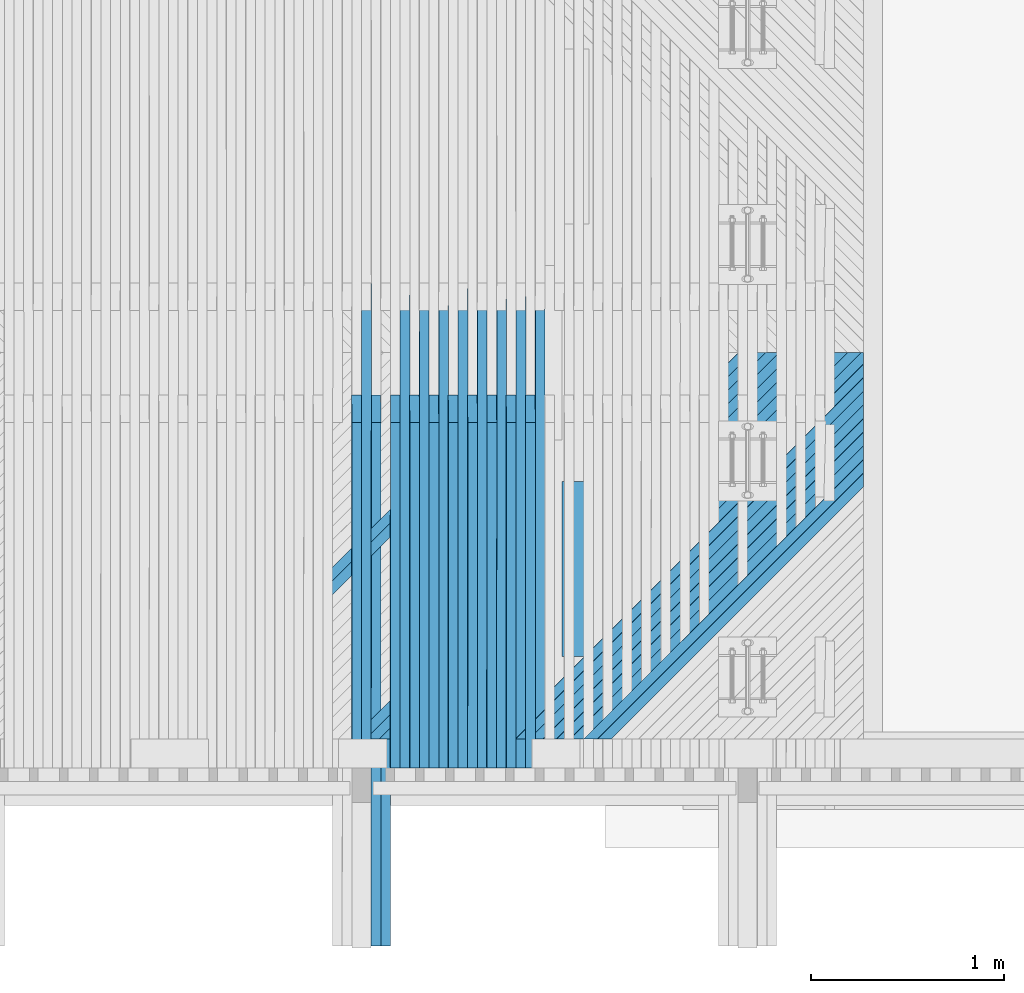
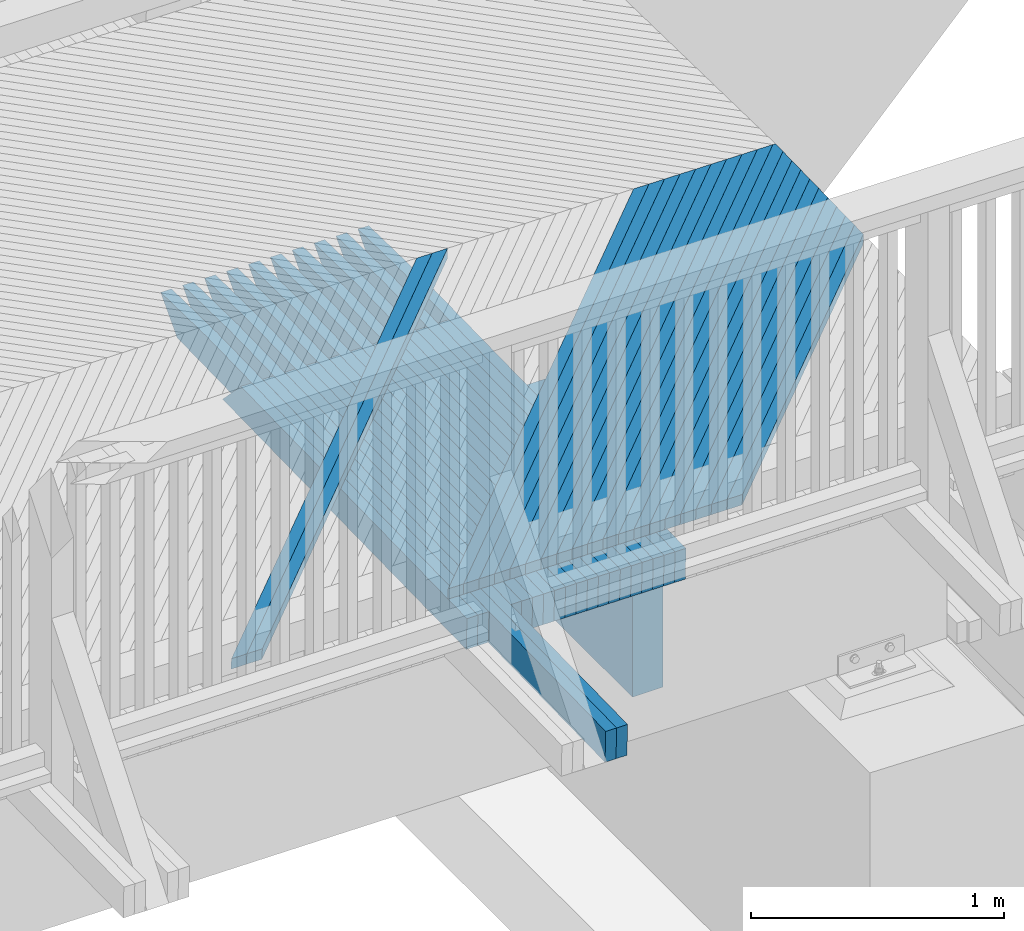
# One storey, part 41 of 53: 42 beams.
"""IFC2X3 building model written with IfcOpenShell, lengths in millimetres."""

import ifcopenshell
import ifcopenshell.guid

model = None  # the IFC model being written
_history = None  # IfcOwnerHistory: only IFC2X3 demands one
_inside = {}  # id of a spatial element -> (the spatial element, [elements in it])
_under = {}  # id of a project, library or spatial element -> (it, [spatial elements below it])
_declared = {}  # id of a project -> (the project, [libraries it declares])
_typed = {}  # id of a type object -> (the type object, [elements of that type])
_made_of = {}  # id of a material, layer set ... -> (it, [elements and type objects made of it])


def new_model(schema):
    """Start an empty IFC model of exactly this schema.

    Asked for "IFC4X3", IfcOpenShell would pick the latest addendum, in which some entities
    have other attributes; the version numbers below select the first issue.
    IFC2X3 requires an IfcOwnerHistory on every rooted entity: one is made here for all.
    """
    global model, _history
    if schema == "IFC4X3":
        model = ifcopenshell.file(schema_version=(4, 3, 0, 0))
    else:
        model = ifcopenshell.file(schema=schema)
    _inside.clear()
    _under.clear()
    _declared.clear()
    _typed.clear()
    _made_of.clear()
    _history = None
    if model.schema == "IFC2X3":
        org = make("IfcOrganization", Name="unknown")
        user = make(
            "IfcPersonAndOrganization",
            ThePerson=make("IfcPerson", FamilyName="unknown"),
            TheOrganization=org,
        )
        app = make(
            "IfcApplication",
            ApplicationDeveloper=org,
            Version="unknown",
            ApplicationFullName="unknown",
            ApplicationIdentifier="unknown",
        )
        _history = make(
            "IfcOwnerHistory",
            OwningUser=user,
            OwningApplication=app,
            ChangeAction="ADDED",
            CreationDate=0,
        )
    return model


def make(cls, **values):
    """One entity of the class cls with the attributes given. An attribute that is None is left unset."""
    return model.create_entity(
        cls, **{name: value for name, value in values.items() if value is not None}
    )


def rooted(cls, **values):
    """An entity with a GlobalId (a new one), such as an element, a storey or a relation."""
    return make(cls, GlobalId=ifcopenshell.guid.new(), OwnerHistory=_history, **values)


def si_unit(unit_type, name, prefix=None):
    """IfcSIUnit, for example si_unit("LENGTHUNIT", "METRE", prefix="MILLI")."""
    return make("IfcSIUnit", UnitType=unit_type, Prefix=prefix, Name=name)


def assignment(units):
    """IfcUnitAssignment: the units of a project."""
    return None if units is None else make("IfcUnitAssignment", Units=units)


def point(xyz):
    """IfcCartesianPoint."""
    return None if xyz is None else make("IfcCartesianPoint", Coordinates=xyz)


def direction(xyz):
    """IfcDirection."""
    return None if xyz is None else make("IfcDirection", DirectionRatios=xyz)


def frame(location, z_axis=None, x_axis=None):
    """IfcAxis2Placement3D, a coordinate frame: its origin and axes. An axis left out is left unset."""
    return make(
        "IfcAxis2Placement3D",
        Location=point(location),
        Axis=direction(z_axis),
        RefDirection=direction(x_axis),
    )


def origin_with_axes():
    """The frame at (0, 0, 0) with the z axis (0, 0, 1) and the x axis (1, 0, 0) written out."""
    return frame((0.0, 0.0, 0.0), z_axis=(0.0, 0.0, 1.0), x_axis=(1.0, 0.0, 0.0))


def place(relative_to, where):
    """IfcLocalPlacement: puts the frame where relative to a parent placement (None: the world)."""
    return make(
        "IfcLocalPlacement", PlacementRelTo=relative_to, RelativePlacement=where
    )


def context(
    kind, dimensions, precision=None, world=None, true_north=None, identifier=None
):
    """IfcGeometricRepresentationContext, for example the 3D "Model" context."""
    return make(
        "IfcGeometricRepresentationContext",
        ContextIdentifier=identifier,
        ContextType=kind,
        CoordinateSpaceDimension=dimensions,
        Precision=precision,
        WorldCoordinateSystem=world,
        TrueNorth=true_north,
    )


def subcontext(parent, identifier, kind, view, scale=None):
    """IfcGeometricRepresentationSubContext, for example "Body" below "Model"."""
    return make(
        "IfcGeometricRepresentationSubContext",
        ContextIdentifier=identifier,
        ContextType=kind,
        ParentContext=parent,
        TargetScale=scale,
        TargetView=view,
    )


def project(units=None, contexts=None):
    """IfcProject with its units and contexts."""
    return rooted(
        "IfcProject",
        Name="project",
        RepresentationContexts=contexts,
        UnitsInContext=assignment(units),
    )


def spatial(cls, under=None, at=None, **own):
    """A site, building, storey or space (cls), placed at a placement, below another one or the project."""
    s = rooted(cls, ObjectPlacement=at, **own)
    if under is not None:
        _under.setdefault(under.id(), (under, []))[1].append(s)
    return s


def faces_of(points, faces, orient=None, outer=None):
    """IfcFace entities. A face is a list of loops; a loop is a list of indices into points, from 0.

    orient and outer hold one flag for each loop. By default every Orientation is true, the
    first loop of a face is its IfcFaceOuterBound and the others are IfcFaceBound.
    """
    made = []
    for i, loops in enumerate(faces):
        bounds = []
        for j, loop in enumerate(loops):
            is_outer = j == 0 if outer is None else outer[i][j]
            bounds.append(
                make(
                    "IfcFaceOuterBound" if is_outer else "IfcFaceBound",
                    Bound=make("IfcPolyLoop", Polygon=[points[k] for k in loop]),
                    Orientation=True if orient is None else orient[i][j],
                )
            )
        made.append(make("IfcFace", Bounds=bounds))
    return made


def faceted_brep(points, faces, orient=None, outer=None, voids=None):
    """IfcFacetedBrep: a solid bounded by flat faces; with voids (closed shells), ...WithVoids."""
    shared = [point(p) for p in points]
    hull = make("IfcClosedShell", CfsFaces=faces_of(shared, faces, orient, outer))
    if voids is None:
        return make("IfcFacetedBrep", Outer=hull)
    return make(
        "IfcFacetedBrepWithVoids",
        Outer=hull,
        Voids=[
            make(cls, CfsFaces=faces_of(shared, fs, o, b)) for cls, fs, o, b in voids
        ],
    )


def shape(context_of_items, identifier, shape_type, items):
    """IfcShapeRepresentation: the items that make up one representation, for example the "Body"."""
    return make(
        "IfcShapeRepresentation",
        ContextOfItems=context_of_items,
        RepresentationIdentifier=identifier,
        RepresentationType=shape_type,
        Items=items,
    )


def material(Name=None, Category=None):
    """IfcMaterial."""
    return make("IfcMaterial", Name=Name, Category=Category)


def made_of(thing, what):
    """Note that an element or type object is made of a material, layer set ...; save() writes the relation."""
    if what is not None:
        _made_of.setdefault(what.id(), (what, []))[1].append(thing)
    return thing


def type_object(cls, material=None, **own):
    """A type object (cls), such as IfcWallType, which elements share."""
    return made_of(rooted(cls, **own), material)


def element(
    cls,
    number,
    at=None,
    inside=None,
    cuts=None,
    type_object=None,
    material=None,
    context=None,
    identifier="Body",
    shape_type=None,
    held_by="IfcProductDefinitionShape",
    body=None,
    shapes=None,
    **own,
):
    """One element of the class cls, such as IfcWall. Its Tag is "e" and its number.

    at: its placement. inside: the storey or other place that contains it. cuts: it is an
    opening in that element (IfcRelVoidsElement). A single representation is given by context,
    identifier, shape_type and body (its items); several are given by shapes. held_by: the class
    of the entity that holds the representations. save() writes the other relations.
    """
    e = rooted(cls, Tag="e%d" % number, ObjectPlacement=at, **own)
    if body is not None:
        shapes = [shape(context, identifier, shape_type, body)]
    if shapes is not None:
        e.Representation = make(held_by, Representations=shapes)
    if inside is not None:
        _inside.setdefault(inside.id(), (inside, []))[1].append(e)
    if cuts is not None:
        rooted(
            "IfcRelVoidsElement", RelatingBuildingElement=cuts, RelatedOpeningElement=e
        )
    if type_object is not None:
        _typed.setdefault(type_object.id(), (type_object, []))[1].append(e)
    return made_of(e, material)


def aggregate(whole, parts):
    """IfcRelAggregates: a whole, such as a stair, and the parts it consists of."""
    return rooted("IfcRelAggregates", RelatingObject=whole, RelatedObjects=parts)


def save(model, path):
    """Write the relations noted so far, then the file.

    IfcRelAggregates (storeys below a building ...), IfcRelContainedInSpatialStructure (elements
    in a storey), IfcRelDefinesByType, IfcRelAssociatesMaterial and IfcRelDeclares: one each for
    every whole, place, type object, material and project.
    """
    for whole, parts in _under.values():
        aggregate(whole, parts)
    for where, things in _inside.values():
        rooted(
            "IfcRelContainedInSpatialStructure",
            RelatedElements=things,
            RelatingStructure=where,
        )
    for kind, things in _typed.values():
        rooted("IfcRelDefinesByType", RelatedObjects=things, RelatingType=kind)
    for what, things in _made_of.values():
        rooted("IfcRelAssociatesMaterial", RelatedObjects=things, RelatingMaterial=what)
    for by, libraries in _declared.values():
        rooted("IfcRelDeclares", RelatingContext=by, RelatedDefinitions=libraries)
    model.write(path)


model = new_model("IFC2X3")

# Units and contexts
model_context = context("Model", 3, precision=1e-05, world=origin_with_axes())
body_context = subcontext(model_context, "Body", "Model", "MODEL_VIEW")
ifc_project = project(units=[si_unit("LENGTHUNIT", "METRE", prefix="MILLI"), si_unit("AREAUNIT", "SQUARE_METRE"), si_unit("VOLUMEUNIT", "CUBIC_METRE"), si_unit("MASSUNIT", "GRAM", prefix="KILO"), si_unit("TIMEUNIT", "SECOND"), si_unit("PLANEANGLEUNIT", "RADIAN"), si_unit("SOLIDANGLEUNIT", "STERADIAN"), si_unit("THERMODYNAMICTEMPERATUREUNIT", "DEGREE_CELSIUS"), si_unit("LUMINOUSINTENSITYUNIT", "LUMEN")], contexts=[model_context])

# Site, building, storey
site_placement = place(None, origin_with_axes())
site = spatial("IfcSite", under=ifc_project, at=site_placement, Name="Undefined", CompositionType="ELEMENT")
building_placement = place(site_placement, origin_with_axes())
building = spatial("IfcBuilding", under=site, at=building_placement, Name="Undefined", CompositionType="ELEMENT")
storey_placement = place(building_placement, origin_with_axes())
storey = spatial("IfcBuildingStorey", under=building, at=storey_placement, Name="Undefined", CompositionType="ELEMENT", Elevation=0.0)

# Beams
ifc_material = material(Name="TIMBER/Timber_Undefined")
beam_type_1 = type_object("IfcBeamType", Name="945*140", PredefinedType="NOTDEFINED")
beam_1_placement = place(storey_placement, frame((15109.0, 41697.5, 2500.4679002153), z_axis=(0.0, 0.0, 1.0), x_axis=(0.0, -1.0, 0.0)))
element("IfcBeam", 1, at=beam_1_placement, inside=storey, type_object=beam_type_1, material=ifc_material, Name="PALKKI", ObjectType="945*140", context=body_context, shape_type="Brep", body=[
    faceted_brep([(0.0, 70.0, -472.5), (0.0, 70.0, 472.5), (905.0, 70.0, 472.5), (905.0, 70.0, -472.5), (0.0, -70.0, 472.5), (905.0, -70.0, 472.5), (0.0, -70.0, -472.5), (905.0, -70.0, -472.5)], [[[0, 1, 2, 3]], [[1, 4, 5, 2]], [[4, 6, 7, 5]], [[6, 0, 3, 7]], [[5, 7, 3, 2]], [[6, 4, 1, 0]]]),
])
beam_type_2 = type_object("IfcBeamType", Name="50*50", PredefinedType="NOTDEFINED")
beam_2_placement = place(storey_placement, frame((17258.8677408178, 42364.5001003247, 3164.92933385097), z_axis=(0.706832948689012, -0.706981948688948, -0.0237425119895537), x_axis=(-0.707250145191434, -0.706948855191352, -0.00453302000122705)))
element("IfcBeam", 2, at=beam_2_placement, inside=storey, type_object=beam_type_2, material=ifc_material, Name="BEAM", ObjectType="50*50", context=body_context, shape_type="Brep", body=[
    faceted_brep([(2802.92643296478, -25.0, 25.0), (2852.92877373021, -25.0000000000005, -25.0000000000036), (2854.34301907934, 24.9999999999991, -25.0000000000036), (2804.34067830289, 25.0, 25.0000000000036), (906.12553705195, 24.9999999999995, -25.0), (956.096042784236, 24.9999999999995, 25.0000000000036), (957.056097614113, -24.9999999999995, 24.9999999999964), (907.085591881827, -24.9999999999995, -25.0000000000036)], [[[0, 1, 2, 3]], [[3, 2, 4, 5]], [[0, 3, 5, 6]], [[1, 0, 6, 7]], [[2, 1, 7, 4]], [[6, 5, 4, 7]]]),
])
beam_3_placement = place(storey_placement, frame((17188.1518059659, 42364.5001003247, 3166.01273338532), z_axis=(0.706835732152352, -0.706981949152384, -0.0236594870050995), x_axis=(-0.707249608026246, -0.706948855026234, -0.00461609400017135)))
element("IfcBeam", 3, at=beam_3_placement, inside=storey, type_object=beam_type_2, material=ifc_material, Name="BEAM", ObjectType="50*50", context=body_context, shape_type="Brep", body=[
    faceted_brep([(2802.92643296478, -25.0, 25.0), (2852.92877373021, -25.0000000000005, -25.0000000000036), (2854.34301907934, 24.9999999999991, -25.0000000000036), (2804.34067830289, 25.0, 25.0000000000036), (806.143039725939, 24.9999999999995, -24.9999999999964), (856.113780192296, 25.0, 24.9999999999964), (857.065534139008, -24.9999999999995, 24.9999999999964), (807.094793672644, -24.9999999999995, -25.0000000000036)], [[[0, 1, 2, 3]], [[3, 2, 4, 5]], [[0, 3, 5, 6]], [[1, 0, 6, 7]], [[2, 1, 7, 4]], [[6, 5, 4, 7]]]),
])
beam_4_placement = place(storey_placement, frame((17117.4357443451, 42364.5001003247, 3167.08782657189), z_axis=(0.706838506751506, -0.706981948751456, -0.0235764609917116), x_axis=(-0.707249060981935, -0.706948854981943, -0.00469916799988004)))
element("IfcBeam", 4, at=beam_4_placement, inside=storey, type_object=beam_type_2, material=ifc_material, Name="BEAM", ObjectType="50*50", context=body_context, shape_type="Brep", body=[
    faceted_brep([(2802.92643296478, -25.0, 25.0), (2852.92877373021, -25.0000000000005, -25.0000000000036), (2854.34301907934, 24.9999999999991, -25.0000000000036), (2804.34067830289, 25.0, 25.0000000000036), (706.160221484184, 25.0, -25.0000000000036), (756.131196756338, 25.0, 25.0000000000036), (757.074649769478, -25.0, 25.0000000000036), (707.103674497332, -24.9999999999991, -25.0000000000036)], [[[0, 1, 2, 3]], [[3, 2, 4, 5]], [[0, 3, 5, 6]], [[1, 0, 6, 7]], [[2, 1, 7, 4]], [[6, 5, 4, 7]]]),
])
beam_5_placement = place(storey_placement, frame((17046.7195569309, 42364.5001003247, 3168.15461339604), z_axis=(0.706841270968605, -0.706981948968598, -0.0234934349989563), x_axis=(-0.707248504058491, -0.706948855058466, -0.00478224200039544)))
element("IfcBeam", 5, at=beam_5_placement, inside=storey, type_object=beam_type_2, material=ifc_material, Name="BEAM", ObjectType="50*50", context=body_context, shape_type="Brep", body=[
    faceted_brep([(2802.92643296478, -25.0, 25.0), (2852.92877373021, -25.0000000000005, -25.0000000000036), (2854.34301907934, 24.9999999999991, -25.0000000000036), (2804.34067830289, 25.0, 25.0000000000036), (606.177079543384, 24.9999999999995, -25.0), (656.148289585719, 24.9999999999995, 24.9999999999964), (657.083441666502, -25.0000000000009, 24.9999999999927), (607.112231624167, -25.0000000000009, -25.0000000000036)], [[[0, 1, 2, 3]], [[3, 2, 4, 5]], [[0, 3, 5, 6]], [[1, 0, 6, 7]], [[2, 1, 7, 4]], [[6, 5, 4, 7]]]),
])
beam_6_placement = place(storey_placement, frame((16976.0032446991, 42364.5001003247, 3169.21309384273), z_axis=(0.70684402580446, -0.706981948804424, -0.0234104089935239), x_axis=(-0.707247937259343, -0.706948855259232, -0.00486531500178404)))
element("IfcBeam", 6, at=beam_6_placement, inside=storey, type_object=beam_type_2, material=ifc_material, Name="BEAM", ObjectType="50*50", context=body_context, shape_type="Brep", body=[
    faceted_brep([(2802.92643296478, -25.0, 25.0), (2852.92877373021, -25.0000000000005, -25.0000000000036), (2854.34301907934, 24.9999999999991, -25.0000000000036), (2804.34067830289, 25.0, 25.0000000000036), (506.193611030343, 24.9999999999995, -24.9999999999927), (556.165055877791, 24.9999999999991, 25.0000000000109), (557.091907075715, -25.0, 25.0000000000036), (507.120462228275, -25.0000000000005, -24.9999999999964)], [[[0, 1, 2, 3]], [[3, 2, 4, 5]], [[0, 3, 5, 6]], [[1, 0, 6, 7]], [[2, 1, 7, 4]], [[6, 5, 4, 7]]]),
])
beam_7_placement = place(storey_placement, frame((16905.2868086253, 42364.5001003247, 3170.26326789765), z_axis=(0.706846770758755, -0.70698194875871, -0.0233273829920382), x_axis=(-0.707247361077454, -0.706948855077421, -0.00494838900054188)))
element("IfcBeam", 7, at=beam_7_placement, inside=storey, type_object=beam_type_2, material=ifc_material, Name="BEAM", ObjectType="50*50", context=body_context, shape_type="Brep", body=[
    faceted_brep([(2802.92643296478, -25.0, 25.0), (2852.92877373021, -25.0000000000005, -25.0000000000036), (2854.34301907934, 24.9999999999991, -25.0000000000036), (2804.34067830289, 25.0, 25.0000000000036), (406.209812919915, 25.0000000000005, -25.0000000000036), (456.181492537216, 25.0, 25.0000000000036), (457.100042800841, -25.0000000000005, 25.0000000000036), (407.128363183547, -25.0000000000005, -25.0000000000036)], [[[0, 1, 2, 3]], [[3, 2, 4, 5]], [[0, 3, 5, 6]], [[1, 0, 6, 7]], [[2, 1, 7, 4]], [[6, 5, 4, 7]]]),
])
beam_8_placement = place(storey_placement, frame((16834.5702496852, 42364.5001003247, 3171.30513554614), z_axis=(0.706849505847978, -0.706981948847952, -0.023244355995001), x_axis=(-0.707246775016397, -0.70694885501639, -0.0050314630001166)))
element("IfcBeam", 8, at=beam_8_placement, inside=storey, type_object=beam_type_2, material=ifc_material, Name="BEAM", ObjectType="50*50", context=body_context, shape_type="Brep", body=[
    faceted_brep([(2802.92643296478, -25.0, 25.0), (2852.92877373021, -25.0000000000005, -25.0000000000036), (2854.34301907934, 24.9999999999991, -25.0000000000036), (2804.34067830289, 25.0, 25.0000000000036), (306.22568282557, 25.0, -25.0), (356.197597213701, 25.0, 25.0000000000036), (357.107846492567, -25.0, 25.0000000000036), (307.135932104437, -24.9999999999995, -25.0)], [[[0, 1, 2, 3]], [[3, 2, 4, 5]], [[0, 3, 5, 6]], [[1, 0, 6, 7]], [[2, 1, 7, 4]], [[6, 5, 4, 7]]]),
])
beam_9_placement = place(storey_placement, frame((16763.8535688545, 42364.5001003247, 3172.33869677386), z_axis=(0.706852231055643, -0.706981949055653, -0.0231613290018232), x_axis=(-0.707246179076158, -0.706948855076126, -0.0051145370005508)))
element("IfcBeam", 9, at=beam_9_placement, inside=storey, type_object=beam_type_2, material=ifc_material, Name="BEAM", ObjectType="50*50", context=body_context, shape_type="Brep", body=[
    faceted_brep([(2802.92643296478, -25.0, 25.0), (2852.92877373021, -25.0000000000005, -25.0000000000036), (2854.34301907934, 24.9999999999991, -25.0000000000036), (2804.34067830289, 25.0, 25.0000000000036), (206.241217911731, 25.0000000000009, -25.0000000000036), (256.21336707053, 25.0000000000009, 24.9999999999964), (257.115315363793, -25.0, 24.9999999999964), (207.143166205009, -25.0, -24.9999999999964)], [[[0, 1, 2, 3]], [[3, 2, 4, 5]], [[0, 3, 5, 6]], [[1, 0, 6, 7]], [[2, 1, 7, 4]], [[6, 5, 4, 7]]]),
])
beam_10_placement = place(storey_placement, frame((16693.1367671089, 42364.5001003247, 3173.36395156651), z_axis=(0.706854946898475, -0.706981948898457, -0.0230783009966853), x_axis=(-0.707245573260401, -0.70694885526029, -0.00519761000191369)))
element("IfcBeam", 10, at=beam_10_placement, inside=storey, type_object=beam_type_2, material=ifc_material, Name="BEAM", ObjectType="50*50", context=body_context, shape_type="Brep", body=[
    faceted_brep([(2802.92643296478, -25.0, 25.0), (2852.92877373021, -25.0000000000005, -25.0000000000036), (2854.34301907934, 24.9999999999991, -25.0000000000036), (2804.34067830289, 25.0, 25.0000000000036), (106.256415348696, 25.0000000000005, -25.0), (156.228799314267, 25.0, 24.9999999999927), (157.122446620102, -25.0, 24.9999999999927), (107.150062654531, -25.0000000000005, -25.0)], [[[0, 1, 2, 3]], [[3, 2, 4, 5]], [[0, 3, 5, 6]], [[1, 0, 6, 7]], [[2, 1, 7, 4]], [[6, 5, 4, 7]]]),
])
beam_11_placement = place(storey_placement, frame((16622.419845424, 42364.5001003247, 3174.38089991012), z_axis=(0.70685765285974, -0.706981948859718, -0.0229952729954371), x_axis=(-0.707244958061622, -0.706948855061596, -0.00528068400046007)))
element("IfcBeam", 11, at=beam_11_placement, inside=storey, type_object=beam_type_2, material=ifc_material, Name="BEAM", ObjectType="50*50", context=body_context, shape_type="Brep", body=[
    faceted_brep([(2802.92643296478, -25.0, 25.0), (2852.92877373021, -25.0000000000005, -25.0000000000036), (2854.34301907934, 24.9999999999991, -25.0000000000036), (2804.34067830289, 25.0, 25.0000000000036), (23.4806436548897, -25.0, -25.0), (24.8942457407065, 25.0, -25.0), (15.3243279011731, -25.0000000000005, -16.8278154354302), (15.5892580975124, 25.0, -15.6769087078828), (56.2438911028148, 24.9999999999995, 25.0000000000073), (57.1292373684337, -25.0000000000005, 25.0000000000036)], [[[0, 1, 2, 3]], [[4, 5, 2, 1]], [[5, 4, 6, 7]], [[3, 2, 5, 7, 8]], [[0, 3, 8, 9]], [[4, 1, 0, 9, 6]], [[8, 7, 6, 9]]]),
])
for number, where, z_axis, x_axis, name in (
    (12, (16551.7028047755, 42364.5001003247, 3175.38954179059), (0.706860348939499, -0.70698194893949, -0.0229122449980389), (-0.707244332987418, -0.706948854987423, -0.00536375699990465), "BEAM"),
    (13, (16480.9856461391, 42364.5001003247, 3176.38987719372), (0.706863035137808, -0.706981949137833, -0.0228292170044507), (-0.707243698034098, -0.706948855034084, -0.00544683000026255), "BEAM"),
    (14, (16410.2683704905, 42364.5001003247, 3177.38190610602), (0.706865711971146, -0.706981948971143, -0.0227461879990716), (-0.707243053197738, -0.706948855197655, -0.00552990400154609), "BEAM"),
    (15, (16339.5509788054, 42364.5001003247, 3178.36562851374), (0.706868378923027, -0.706981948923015, -0.0226631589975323), (-0.707242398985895, -0.7069488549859, -0.00561297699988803), "BEAM"),
    (16, (16268.8334720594, 42364.5001003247, 3179.34104440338), (0.706871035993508, -0.706981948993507, -0.0225801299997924), (-0.707241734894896, -0.706948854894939, -0.00569604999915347), "BEAM"),
    (17, (16198.1158512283, 42364.5001003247, 3180.30815376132), (0.706873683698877, -0.706981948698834, -0.0224970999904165), (-0.707241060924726, -0.706948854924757, -0.00577912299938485), "BEAM"),
    (18, (16127.3981172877, 42364.5001003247, 3181.26695657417), (0.706876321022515, -0.706981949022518, -0.0224140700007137), (-0.707240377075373, -0.706948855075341, -0.00586219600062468), "BEAM"),
    (19, (16056.6802712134, 42364.5001003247, 3182.21745282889), (0.706878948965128, -0.706981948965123, -0.0223310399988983), (-0.707239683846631, -0.706948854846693, -0.00594526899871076), "BEAM"),
    (20, (15985.962313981, 42364.5001003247, 3183.15964251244), (0.706881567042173, -0.706981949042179, -0.0222480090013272), (-0.707238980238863, -0.706948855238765, -0.00602834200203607), "BEAM"),
    (21, (15066.6191985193, 42364.5001003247, 3194.65220464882), (0.706914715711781, -0.706981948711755, -0.0211685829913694), (-0.707228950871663, -0.706948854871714, -0.00710827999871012), "BEAM"),
    (22, (14995.8997875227, 42364.5001003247, 3195.47810102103), (0.706917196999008, -0.706981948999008, -0.0210855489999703), (-0.707228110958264, -0.70694885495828, -0.00719135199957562), "BEAM"),
):
    element("IfcBeam", number, at=place(storey_placement, frame(where, z_axis=z_axis, x_axis=x_axis)), inside=storey, type_object=beam_type_2, material=ifc_material, Name=name, ObjectType="50*50", context=body_context, shape_type="Brep", body=[
        faceted_brep([(24.8942457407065, 25.0, -25.0), (-25.0086637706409, 24.9999999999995, 24.9999999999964), (2804.34067830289, 25.0, 25.0000000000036), (2854.34301907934, 24.9999999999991, -25.0000000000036), (-26.4222658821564, -25.0000000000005, 25.0000000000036), (2802.92643296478, -25.0, 25.0), (23.4806436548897, -25.0, -25.0), (2852.92877373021, -25.0000000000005, -25.0000000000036)], [[[0, 1, 2, 3]], [[1, 4, 5, 2]], [[4, 6, 7, 5]], [[6, 0, 3, 7]], [[5, 7, 3, 2]], [[6, 4, 1, 0]]]),
    ])
beam_type_3 = type_object("IfcBeamType", Name="150*50", PredefinedType="NOTDEFINED")
beam_12_placement = place(storey_placement, frame((14124.5888639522, 39292.7893475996, 3043.50597132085), z_axis=(0.0101765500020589, -0.0199960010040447, 0.99974826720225), x_axis=(0.000202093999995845, 0.99980005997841, 0.0199949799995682)))
element("IfcBeam", 23, at=beam_12_placement, inside=storey, type_object=beam_type_3, material=ifc_material, Name="BEAM", ObjectType="150*50", context=body_context, shape_type="Brep", body=[
    faceted_brep([(1.28420651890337e-08, -24.9999999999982, -74.9999999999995), (-1.28347892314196e-08, -24.9999999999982, 75.0), (-1.28347892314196e-08, 25.0, 75.0), (1.28420651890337e-08, 25.0000000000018, -75.0), (3298.90497884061, 24.9999999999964, -74.9999999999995), (3298.90492234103, -25.0, -74.9999999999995), (3434.49245887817, -25.0, 60.5875365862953), (3074.32503029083, -25.0, 75.0000000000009), (3074.32503673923, 25.0000000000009, 75.0), (3434.49251531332, 24.9999999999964, 60.5875365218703)], [[[0, 1, 2, 3]], [[0, 3, 4, 5]], [[1, 0, 5, 6, 7]], [[2, 1, 7, 8]], [[4, 3, 2, 8, 9]], [[5, 4, 9, 6]], [[8, 7, 6, 9]]]),
])
beam_13_placement = place(storey_placement, frame((14074.5736691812, 39292.7893321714, 3044.01508028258), z_axis=(0.0100104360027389, -0.0199960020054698, 0.999749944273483), x_axis=(0.000199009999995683, 0.999800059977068, 0.0199950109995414)))
element("IfcBeam", 24, at=beam_13_placement, inside=storey, type_object=beam_type_3, material=ifc_material, Name="BEAM", ObjectType="150*50", context=body_context, shape_type="Brep", body=[
    faceted_brep([(1.28420651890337e-08, -24.9999999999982, -74.9999999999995), (-1.28347892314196e-08, -24.9999999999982, 75.0), (-1.28347892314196e-08, 25.0, 75.0), (1.28420651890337e-08, 25.0000000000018, -75.0), (2713.86938248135, -25.0000000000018, 74.9999999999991), (2713.86933800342, 25.0000000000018, 75.0), (2852.32643692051, 24.9999999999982, -75.0000000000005), (2852.32648139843, -25.0000000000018, -75.0000000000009)], [[[0, 1, 2, 3]], [[2, 1, 4, 5]], [[3, 2, 5, 6]], [[0, 3, 6, 7]], [[1, 0, 7, 4]], [[7, 6, 5, 4]]]),
])
beam_14_placement = place(storey_placement, frame((14874.6038632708, 40216.5046076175, 3053.88204159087), z_axis=(0.0113405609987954, -0.0199960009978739, 0.999735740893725), x_axis=(0.000226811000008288, 0.999800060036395, 0.0199947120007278)))
element("IfcBeam", 25, at=beam_14_placement, inside=storey, type_object=beam_type_3, material=ifc_material, Name="BEAM", ObjectType="150*50", context=body_context, shape_type="Brep", body=[
    faceted_brep([(1.28420651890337e-08, -24.9999999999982, -74.9999999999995), (-1.28347892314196e-08, -24.9999999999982, 75.0), (-1.28347892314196e-08, 25.0, 75.0), (1.28420651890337e-08, 25.0000000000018, -75.0), (1789.96936433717, -25.0000000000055, 74.9999999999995), (1789.96936408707, 24.9999999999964, 75.0000000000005), (1928.42646328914, 24.9999999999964, -74.9999999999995), (1928.42646353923, -25.0000000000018, -75.0)], [[[0, 1, 2, 3]], [[2, 1, 4, 5]], [[3, 2, 5, 6]], [[0, 3, 6, 7]], [[1, 0, 7, 4]], [[6, 5, 4, 7]]]),
])
beam_15_placement = place(storey_placement, frame((14924.6205833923, 40216.5046076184, 3053.30636416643), z_axis=(0.0115066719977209, -0.0199960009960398, 0.999733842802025), x_axis=(0.00023013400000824, 0.999800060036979, 0.0199946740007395)))
element("IfcBeam", 26, at=beam_15_placement, inside=storey, type_object=beam_type_3, material=ifc_material, Name="BEAM", ObjectType="150*50", context=body_context, shape_type="Brep", body=[
    faceted_brep([(1.28420651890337e-08, -24.9999999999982, -74.9999999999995), (-1.28347892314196e-08, -24.9999999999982, 75.0), (-1.28347892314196e-08, 25.0, 75.0), (1.28420651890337e-08, 25.0000000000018, -75.0), (2375.00494422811, 25.0000000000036, -75.0), (2375.0049444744, -24.9999999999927, -74.9999999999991), (2510.5924871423, -24.9999999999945, 60.5875430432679), (2150.42514405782, -24.9999999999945, 75.0), (2150.42515052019, 25.0000000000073, 75.0), (2510.59248715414, 25.0000000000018, 60.5875433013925)], [[[0, 1, 2, 3]], [[0, 3, 4, 5]], [[1, 0, 5, 6, 7]], [[2, 1, 7, 8]], [[4, 3, 2, 8, 9]], [[5, 4, 9, 6]], [[6, 9, 8, 7]]]),
])
beam_16_placement = place(storey_placement, frame((14774.590259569, 40216.5046076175, 3055.01598487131), z_axis=(0.0111744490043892, -0.0199960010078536, 0.99973761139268), x_axis=(0.000223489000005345, 0.999800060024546, 0.0199947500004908)))
element("IfcBeam", 27, at=beam_16_placement, inside=storey, type_object=beam_type_3, material=ifc_material, Name="BEAM", ObjectType="150*50", context=body_context, shape_type="Brep", body=[
    faceted_brep([(1.28420651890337e-08, -24.9999999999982, -74.9999999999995), (-1.28347892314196e-08, -24.9999999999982, 75.0), (-1.28347892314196e-08, 25.0, 75.0), (1.28420651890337e-08, 25.0000000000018, -75.0), (1789.96936433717, -25.0000000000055, 74.9999999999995), (1789.96936408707, 24.9999999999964, 75.0000000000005), (1928.42646328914, 24.9999999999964, -74.9999999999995), (1928.42646353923, -25.0000000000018, -75.0)], [[[0, 1, 2, 3]], [[2, 1, 4, 5]], [[3, 2, 5, 6]], [[0, 3, 6, 7]], [[1, 0, 7, 4]], [[6, 5, 4, 7]]]),
])
beam_17_placement = place(storey_placement, frame((14824.6070746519, 40216.5046076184, 3054.44861800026), z_axis=(0.0113405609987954, -0.0199960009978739, 0.999735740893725), x_axis=(0.000226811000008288, 0.999800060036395, 0.0199947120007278)))
element("IfcBeam", 28, at=beam_17_placement, inside=storey, type_object=beam_type_3, material=ifc_material, Name="BEAM", ObjectType="150*50", context=body_context, shape_type="Brep", body=[
    faceted_brep([(1.28420651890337e-08, -24.9999999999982, -74.9999999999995), (-1.28347892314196e-08, -24.9999999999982, 75.0), (-1.28347892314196e-08, 25.0, 75.0), (1.28420651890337e-08, 25.0000000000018, -75.0), (2375.00494422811, 25.0000000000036, -75.0), (2375.0049444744, -24.9999999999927, -74.9999999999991), (2510.5924871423, -24.9999999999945, 60.5875430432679), (2150.42514405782, -24.9999999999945, 75.0), (2150.42515052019, 25.0000000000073, 75.0), (2510.59248715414, 25.0000000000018, 60.5875433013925)], [[[0, 1, 2, 3]], [[0, 3, 4, 5]], [[1, 0, 5, 6, 7]], [[2, 1, 7, 8]], [[4, 3, 2, 8, 9]], [[5, 4, 9, 6]], [[6, 9, 8, 7]]]),
])
beam_18_placement = place(storey_placement, frame((14674.576468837, 40216.5046076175, 3056.13331034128), z_axis=(0.0110083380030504, -0.0199960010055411, 0.999739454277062), x_axis=(0.000220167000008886, 0.999800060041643, 0.0199947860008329)))
element("IfcBeam", 29, at=beam_18_placement, inside=storey, type_object=beam_type_3, material=ifc_material, Name="BEAM", ObjectType="150*50", context=body_context, shape_type="Brep", body=[
    faceted_brep([(1.28420651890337e-08, -24.9999999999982, -74.9999999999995), (-1.28347892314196e-08, -24.9999999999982, 75.0), (-1.28347892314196e-08, 25.0, 75.0), (1.28420651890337e-08, 25.0000000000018, -75.0), (1789.96936433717, -25.0000000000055, 74.9999999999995), (1789.96936408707, 24.9999999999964, 75.0000000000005), (1928.42646328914, 24.9999999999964, -74.9999999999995), (1928.42646353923, -25.0000000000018, -75.0)], [[[0, 1, 2, 3]], [[2, 1, 4, 5]], [[3, 2, 5, 6]], [[0, 3, 6, 7]], [[1, 0, 7, 4]], [[6, 5, 4, 7]]]),
])
beam_19_placement = place(storey_placement, frame((14724.5933775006, 40216.5046076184, 3055.57425403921), z_axis=(0.0111744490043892, -0.0199960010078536, 0.99973761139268), x_axis=(0.000223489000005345, 0.999800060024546, 0.0199947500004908)))
element("IfcBeam", 30, at=beam_19_placement, inside=storey, type_object=beam_type_3, material=ifc_material, Name="BEAM", ObjectType="150*50", context=body_context, shape_type="Brep", body=[
    faceted_brep([(1.28420651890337e-08, -24.9999999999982, -74.9999999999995), (-1.28347892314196e-08, -24.9999999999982, 75.0), (-1.28347892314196e-08, 25.0, 75.0), (1.28420651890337e-08, 25.0000000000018, -75.0), (2375.00494422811, 25.0000000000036, -75.0), (2375.0049444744, -24.9999999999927, -74.9999999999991), (2510.5924871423, -24.9999999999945, 60.5875430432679), (2150.42514405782, -24.9999999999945, 75.0), (2150.42515052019, 25.0000000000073, 75.0), (2510.59248715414, 25.0000000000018, 60.5875433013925)], [[[0, 1, 2, 3]], [[0, 3, 4, 5]], [[1, 0, 5, 6, 7]], [[2, 1, 7, 8]], [[4, 3, 2, 8, 9]], [[5, 4, 9, 6]], [[6, 9, 8, 7]]]),
])
beam_20_placement = place(storey_placement, frame((14574.562493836, 40216.5046076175, 3057.23401797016), z_axis=(0.0108422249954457, -0.0199960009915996, 0.999741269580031), x_axis=(0.000216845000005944, 0.999800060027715, 0.0199948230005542)))
element("IfcBeam", 31, at=beam_20_placement, inside=storey, type_object=beam_type_3, material=ifc_material, Name="BEAM", ObjectType="150*50", context=body_context, shape_type="Brep", body=[
    faceted_brep([(1.28420651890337e-08, -24.9999999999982, -74.9999999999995), (-1.28347892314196e-08, -24.9999999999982, 75.0), (-1.28347892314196e-08, 25.0, 75.0), (1.28420651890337e-08, 25.0000000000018, -75.0), (1789.96936433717, -25.0000000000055, 74.9999999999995), (1789.96936408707, 24.9999999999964, 75.0000000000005), (1928.42646328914, 24.9999999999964, -74.9999999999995), (1928.42646353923, -25.0000000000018, -75.0)], [[[0, 1, 2, 3]], [[2, 1, 4, 5]], [[3, 2, 5, 6]], [[0, 3, 6, 7]], [[1, 0, 7, 4]], [[6, 5, 4, 7]]]),
])
beam_21_placement = place(storey_placement, frame((14624.5794946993, 40216.5046076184, 3056.68327225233), z_axis=(0.0110083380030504, -0.0199960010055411, 0.999739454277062), x_axis=(0.000220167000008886, 0.999800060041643, 0.0199947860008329)))
element("IfcBeam", 32, at=beam_21_placement, inside=storey, type_object=beam_type_3, material=ifc_material, Name="BEAM", ObjectType="150*50", context=body_context, shape_type="Brep", body=[
    faceted_brep([(1.28420651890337e-08, -24.9999999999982, -74.9999999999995), (-1.28347892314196e-08, -24.9999999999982, 75.0), (-1.28347892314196e-08, 25.0, 75.0), (1.28420651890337e-08, 25.0000000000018, -75.0), (2375.00494422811, 25.0000000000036, -75.0), (2375.0049444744, -24.9999999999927, -74.9999999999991), (2510.5924871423, -24.9999999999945, 60.5875430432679), (2150.42514405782, -24.9999999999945, 75.0), (2150.42515052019, 25.0000000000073, 75.0), (2510.59248715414, 25.0000000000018, 60.5875433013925)], [[[0, 1, 2, 3]], [[0, 3, 4, 5]], [[1, 0, 5, 6, 7]], [[2, 1, 7, 8]], [[4, 3, 2, 8, 9]], [[5, 4, 9, 6]], [[6, 9, 8, 7]]]),
])
beam_22_placement = place(storey_placement, frame((14474.5483373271, 40216.5046076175, 3058.31810772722), z_axis=(0.0106761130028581, -0.0199960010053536, 0.999743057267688), x_axis=(0.000213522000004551, 0.999800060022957, 0.0199948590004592)))
element("IfcBeam", 33, at=beam_22_placement, inside=storey, type_object=beam_type_3, material=ifc_material, Name="BEAM", ObjectType="150*50", context=body_context, shape_type="Brep", body=[
    faceted_brep([(1.28420651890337e-08, -24.9999999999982, -74.9999999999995), (-1.28347892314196e-08, -24.9999999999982, 75.0), (-1.28347892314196e-08, 25.0, 75.0), (1.28420651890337e-08, 25.0000000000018, -75.0), (1789.96936433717, -25.0000000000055, 74.9999999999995), (1789.96936408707, 24.9999999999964, 75.0000000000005), (1928.42646328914, 24.9999999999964, -74.9999999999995), (1928.42646353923, -25.0000000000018, -75.0)], [[[0, 1, 2, 3]], [[2, 1, 4, 5]], [[3, 2, 5, 6]], [[0, 3, 6, 7]], [[1, 0, 7, 4]], [[6, 5, 4, 7]]]),
])
beam_23_placement = place(storey_placement, frame((14524.5654290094, 40216.5046076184, 3057.77567260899), z_axis=(0.0108422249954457, -0.0199960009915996, 0.999741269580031), x_axis=(0.000216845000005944, 0.999800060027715, 0.0199948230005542)))
element("IfcBeam", 34, at=beam_23_placement, inside=storey, type_object=beam_type_3, material=ifc_material, Name="BEAM", ObjectType="150*50", context=body_context, shape_type="Brep", body=[
    faceted_brep([(1.28420651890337e-08, -24.9999999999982, -74.9999999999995), (-1.28347892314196e-08, -24.9999999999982, 75.0), (-1.28347892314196e-08, 25.0, 75.0), (1.28420651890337e-08, 25.0000000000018, -75.0), (2375.00494422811, 25.0000000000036, -75.0), (2375.0049444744, -24.9999999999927, -74.9999999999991), (2510.5924871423, -24.9999999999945, 60.5875430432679), (2150.42514405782, -24.9999999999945, 75.0), (2150.42515052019, 25.0000000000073, 75.0), (2510.59248715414, 25.0000000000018, 60.5875433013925)], [[[0, 1, 2, 3]], [[0, 3, 4, 5]], [[1, 0, 5, 6, 7]], [[2, 1, 7, 8]], [[4, 3, 2, 8, 9]], [[5, 4, 9, 6]], [[6, 9, 8, 7]]]),
])
beam_24_placement = place(storey_placement, frame((14374.5340020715, 40216.5046076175, 3059.38557958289), z_axis=(0.0105100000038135, -0.0199960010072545, 0.99974481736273), x_axis=(0.000210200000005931, 0.999800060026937, 0.0199948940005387)))
element("IfcBeam", 35, at=beam_24_placement, inside=storey, type_object=beam_type_3, material=ifc_material, Name="BEAM", ObjectType="150*50", context=body_context, shape_type="Brep", body=[
    faceted_brep([(1.28420651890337e-08, -24.9999999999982, -74.9999999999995), (-1.28347892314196e-08, -24.9999999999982, 75.0), (-1.28347892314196e-08, 25.0, 75.0), (1.28420651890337e-08, 25.0000000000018, -75.0), (1789.96936433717, -25.0000000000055, 74.9999999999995), (1789.96936408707, 24.9999999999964, 75.0000000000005), (1928.42646328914, 24.9999999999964, -74.9999999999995), (1928.42646353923, -25.0000000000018, -75.0)], [[[0, 1, 2, 3]], [[2, 1, 4, 5]], [[3, 2, 5, 6]], [[0, 3, 6, 7]], [[1, 0, 7, 4]], [[6, 5, 4, 7]]]),
])
beam_25_placement = place(storey_placement, frame((14424.5511831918, 40216.5046076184, 3058.85145507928), z_axis=(0.0106761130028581, -0.0199960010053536, 0.999743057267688), x_axis=(0.000213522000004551, 0.999800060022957, 0.0199948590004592)))
element("IfcBeam", 36, at=beam_25_placement, inside=storey, type_object=beam_type_3, material=ifc_material, Name="BEAM", ObjectType="150*50", context=body_context, shape_type="Brep", body=[
    faceted_brep([(1.28420651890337e-08, -24.9999999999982, -74.9999999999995), (-1.28347892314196e-08, -24.9999999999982, 75.0), (-1.28347892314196e-08, 25.0, 75.0), (1.28420651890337e-08, 25.0000000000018, -75.0), (2375.00494422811, 25.0000000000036, -75.0), (2375.0049444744, -24.9999999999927, -74.9999999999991), (2510.5924871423, -24.9999999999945, 60.5875430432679), (2150.42514405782, -24.9999999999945, 75.0), (2150.42515052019, 25.0000000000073, 75.0), (2510.59248715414, 25.0000000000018, 60.5875433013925)], [[[0, 1, 2, 3]], [[0, 3, 4, 5]], [[1, 0, 5, 6, 7]], [[2, 1, 7, 8]], [[4, 3, 2, 8, 9]], [[5, 4, 9, 6]], [[6, 9, 8, 7]]]),
])
beam_26_placement = place(storey_placement, frame((14274.5194908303, 40216.5046076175, 3060.43643350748), z_axis=(0.010343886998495, -0.0199960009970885, 0.999746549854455), x_axis=(0.000206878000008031, 0.999800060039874, 0.0199949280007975)))
element("IfcBeam", 37, at=beam_26_placement, inside=storey, type_object=beam_type_3, material=ifc_material, Name="BEAM", ObjectType="150*50", context=body_context, shape_type="Brep", body=[
    faceted_brep([(1.28420651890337e-08, -24.9999999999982, -74.9999999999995), (-1.28347892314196e-08, -24.9999999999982, 75.0), (-1.28347892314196e-08, 25.0, 75.0), (1.28420651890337e-08, 25.0000000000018, -75.0), (1789.96936433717, -25.0000000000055, 74.9999999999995), (1789.96936408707, 24.9999999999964, 75.0000000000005), (1928.42646328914, 24.9999999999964, -74.9999999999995), (1928.42646353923, -25.0000000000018, -75.0)], [[[0, 1, 2, 3]], [[2, 1, 4, 5]], [[3, 2, 5, 6]], [[0, 3, 6, 7]], [[1, 0, 7, 4]], [[6, 5, 4, 7]]]),
])
beam_27_placement = place(storey_placement, frame((14324.5367600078, 40216.5046076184, 3059.91061963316), z_axis=(0.0105100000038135, -0.0199960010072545, 0.99974481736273), x_axis=(0.000210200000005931, 0.999800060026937, 0.0199948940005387)))
element("IfcBeam", 38, at=beam_27_placement, inside=storey, type_object=beam_type_3, material=ifc_material, Name="BEAM", ObjectType="150*50", context=body_context, shape_type="Brep", body=[
    faceted_brep([(1.28420651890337e-08, -24.9999999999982, -74.9999999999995), (-1.28347892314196e-08, -24.9999999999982, 75.0), (-1.28347892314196e-08, 25.0, 75.0), (1.28420651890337e-08, 25.0000000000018, -75.0), (2375.00494422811, 25.0000000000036, -75.0), (2375.0049444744, -24.9999999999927, -74.9999999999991), (2510.5924871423, -24.9999999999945, 60.5875430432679), (2150.42514405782, -24.9999999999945, 75.0), (2150.42515052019, 25.0000000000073, 75.0), (2510.59248715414, 25.0000000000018, 60.5875433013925)], [[[0, 1, 2, 3]], [[0, 3, 4, 5]], [[1, 0, 5, 6, 7]], [[2, 1, 7, 8]], [[4, 3, 2, 8, 9]], [[5, 4, 9, 6]], [[6, 9, 8, 7]]]),
])
beam_28_placement = place(storey_placement, frame((14174.5048063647, 40216.5046076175, 3061.47066947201), z_axis=(0.0101777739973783, -0.0199960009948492, 0.999748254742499), x_axis=(0.000203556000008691, 0.999800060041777, 0.0199949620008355)))
element("IfcBeam", 39, at=beam_28_placement, inside=storey, type_object=beam_type_3, material=ifc_material, Name="BEAM", ObjectType="150*50", context=body_context, shape_type="Brep", body=[
    faceted_brep([(1.28420651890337e-08, -24.9999999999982, -74.9999999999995), (-1.28347892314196e-08, -24.9999999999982, 75.0), (-1.28347892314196e-08, 25.0, 75.0), (1.28420651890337e-08, 25.0000000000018, -75.0), (1789.96936433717, -25.0000000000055, 74.9999999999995), (1789.96936408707, 24.9999999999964, 75.0000000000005), (1928.42646328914, 24.9999999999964, -74.9999999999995), (1928.42646353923, -25.0000000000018, -75.0)], [[[0, 1, 2, 3]], [[2, 1, 4, 5]], [[3, 2, 5, 6]], [[0, 3, 6, 7]], [[1, 0, 7, 4]], [[6, 5, 4, 7]]]),
])
beam_29_placement = place(storey_placement, frame((14224.5221622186, 40216.5046076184, 3060.95316624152), z_axis=(0.010343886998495, -0.0199960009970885, 0.999746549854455), x_axis=(0.000206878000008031, 0.999800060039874, 0.0199949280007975)))
element("IfcBeam", 40, at=beam_29_placement, inside=storey, type_object=beam_type_3, material=ifc_material, Name="BEAM", ObjectType="150*50", context=body_context, shape_type="Brep", body=[
    faceted_brep([(1.28420651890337e-08, -24.9999999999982, -74.9999999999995), (-1.28347892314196e-08, -24.9999999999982, 75.0), (-1.28347892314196e-08, 25.0, 75.0), (1.28420651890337e-08, 25.0000000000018, -75.0), (2375.00494422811, 25.0000000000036, -75.0), (2375.0049444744, -24.9999999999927, -74.9999999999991), (2510.5924871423, -24.9999999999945, 60.5875430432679), (2150.42514405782, -24.9999999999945, 75.0), (2150.42515052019, 25.0000000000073, 75.0), (2510.59248715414, 25.0000000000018, 60.5875433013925)], [[[0, 1, 2, 3]], [[0, 3, 4, 5]], [[1, 0, 5, 6, 7]], [[2, 1, 7, 8]], [[4, 3, 2, 8, 9]], [[5, 4, 9, 6]], [[6, 9, 8, 7]]]),
])
beam_30_placement = place(storey_placement, frame((13974.4749288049, 40216.5046076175, 3063.48928740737), z_axis=(0.00984554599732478, -0.0199960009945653, 0.999751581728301), x_axis=(0.000196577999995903, 0.999800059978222, 0.0199950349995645)))
element("IfcBeam", 41, at=beam_30_placement, inside=storey, type_object=beam_type_3, material=ifc_material, Name="BEAM", ObjectType="150*50", context=body_context, shape_type="Brep", body=[
    faceted_brep([(1.28420651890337e-08, -24.9999999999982, -74.9999999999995), (-1.28347892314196e-08, -24.9999999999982, 75.0), (-1.28347892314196e-08, 25.0, 75.0), (1.28420651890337e-08, 25.0000000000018, -75.0), (1789.96936433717, -25.0000000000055, 74.9999999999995), (1789.96936408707, 24.9999999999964, 75.0000000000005), (1928.42646328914, 24.9999999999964, -74.9999999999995), (1928.42646353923, -25.0000000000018, -75.0)], [[[0, 1, 2, 3]], [[2, 1, 4, 5]], [[3, 2, 5, 6]], [[0, 3, 6, 7]], [[1, 0, 7, 4]], [[6, 5, 4, 7]]]),
])
beam_31_placement = place(storey_placement, frame((14024.4924538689, 40216.5046076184, 3062.98840550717), z_axis=(0.0100116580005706, -0.0199960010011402, 0.999749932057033), x_axis=(0.000200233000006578, 0.999800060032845, 0.0199949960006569)))
element("IfcBeam", 42, at=beam_31_placement, inside=storey, type_object=beam_type_3, material=ifc_material, Name="BEAM", ObjectType="150*50", context=body_context, shape_type="Brep", body=[
    faceted_brep([(1.28420651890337e-08, -24.9999999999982, -74.9999999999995), (-1.28347892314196e-08, -24.9999999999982, 75.0), (-1.28347892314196e-08, 25.0, 75.0), (1.28420651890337e-08, 25.0000000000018, -75.0), (2375.00494422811, 25.0000000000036, -75.0), (2375.0049444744, -24.9999999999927, -74.9999999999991), (2510.5924871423, -24.9999999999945, 60.5875430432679), (2150.42514405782, -24.9999999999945, 75.0), (2150.42515052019, 25.0000000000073, 75.0), (2510.59248715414, 25.0000000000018, 60.5875433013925)], [[[0, 1, 2, 3]], [[0, 3, 4, 5]], [[1, 0, 5, 6, 7]], [[2, 1, 7, 8]], [[4, 3, 2, 8, 9]], [[5, 4, 9, 6]], [[6, 9, 8, 7]]]),
])

save(model, "model.ifc")
